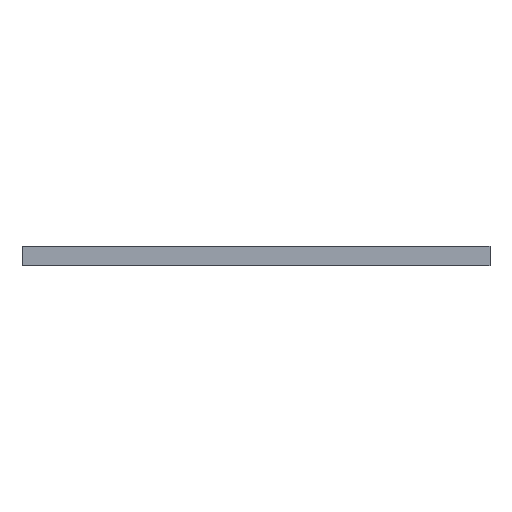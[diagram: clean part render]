
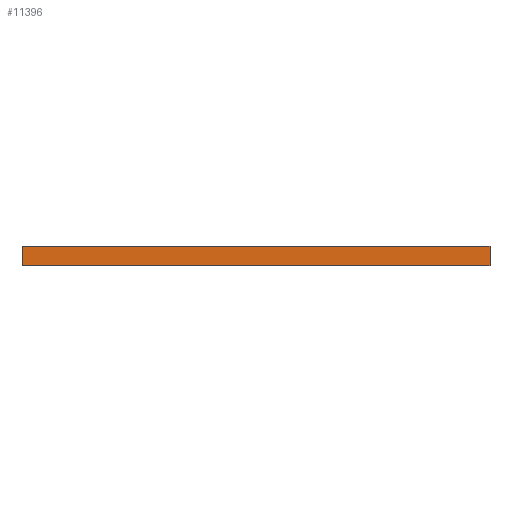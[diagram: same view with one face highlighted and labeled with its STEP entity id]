
A CAD part, front view. The second image highlights one B-rep face of the part: STEP entity #11396.
In plain terms, the highlighted planar face has unit normal (0, -1, 0).
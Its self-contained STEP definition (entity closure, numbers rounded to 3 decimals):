
#8 = FACE_OUTER_BOUND ( 'NONE', #28544, .T. ) ;
#1100 = CARTESIAN_POINT ( 'NONE',  ( -12., 0., 0.5 ) ) ;
#1537 = CARTESIAN_POINT ( 'NONE',  ( 0., 0., 0.5 ) ) ;
#4650 = CARTESIAN_POINT ( 'NONE',  ( -12., 0., 0.5 ) ) ;
#5523 = ORIENTED_EDGE ( 'NONE', *, *, #46813, .F. ) ;
#5750 = VERTEX_POINT ( 'NONE', #42511 ) ;
#7227 = ORIENTED_EDGE ( 'NONE', *, *, #27210, .T. ) ;
#7947 = AXIS2_PLACEMENT_3D ( 'NONE', #4650, #42156, #8485 ) ;
#8485 = DIRECTION ( 'NONE',  ( -1., 0., 0. ) ) ;
#9935 = CARTESIAN_POINT ( 'NONE',  ( -12., 0., 0. ) ) ;
#10872 = CARTESIAN_POINT ( 'NONE',  ( -12., 0., 0. ) ) ;
#11396 = ADVANCED_FACE ( 'NONE', ( #8 ), #46268, .F. ) ;
#12634 = ORIENTED_EDGE ( 'NONE', *, *, #53660, .F. ) ;
#13054 = VERTEX_POINT ( 'NONE', #10872 ) ;
#16687 = CARTESIAN_POINT ( 'NONE',  ( 0., 0., 0.5 ) ) ;
#16719 = EDGE_CURVE ( 'NONE', #35787, #13054, #31217, .T. ) ;
#17343 = LINE ( 'NONE', #9935, #46909 ) ;
#17988 = DIRECTION ( 'NONE',  ( 0., 0., -1. ) ) ;
#18068 = VERTEX_POINT ( 'NONE', #16687 ) ;
#22535 = DIRECTION ( 'NONE',  ( 1., 0., 0. ) ) ;
#23176 = CARTESIAN_POINT ( 'NONE',  ( -12., 0., 0.5 ) ) ;
#27210 = EDGE_CURVE ( 'NONE', #13054, #5750, #17343, .T. ) ;
#28544 = EDGE_LOOP ( 'NONE', ( #7227, #12634, #5523, #43365 ) ) ;
#30912 = VECTOR ( 'NONE', #42995, 1000. ) ;
#31217 = LINE ( 'NONE', #1100, #30912 ) ;
#35787 = VERTEX_POINT ( 'NONE', #23176 ) ;
#39047 = LINE ( 'NONE', #1537, #47834 ) ;
#42156 = DIRECTION ( 'NONE',  ( 0., 1., 0. ) ) ;
#42236 = DIRECTION ( 'NONE',  ( 1., 0., 0. ) ) ;
#42511 = CARTESIAN_POINT ( 'NONE',  ( 0., 0., 0. ) ) ;
#42995 = DIRECTION ( 'NONE',  ( 0., 0., -1. ) ) ;
#43365 = ORIENTED_EDGE ( 'NONE', *, *, #16719, .T. ) ;
#46268 = PLANE ( 'NONE',  #7947 ) ;
#46624 = LINE ( 'NONE', #46892, #51830 ) ;
#46813 = EDGE_CURVE ( 'NONE', #35787, #18068, #46624, .T. ) ;
#46892 = CARTESIAN_POINT ( 'NONE',  ( -12., 0., 0.5 ) ) ;
#46909 = VECTOR ( 'NONE', #22535, 1000. ) ;
#47834 = VECTOR ( 'NONE', #17988, 1000. ) ;
#51830 = VECTOR ( 'NONE', #42236, 1000. ) ;
#53660 = EDGE_CURVE ( 'NONE', #18068, #5750, #39047, .T. ) ;
